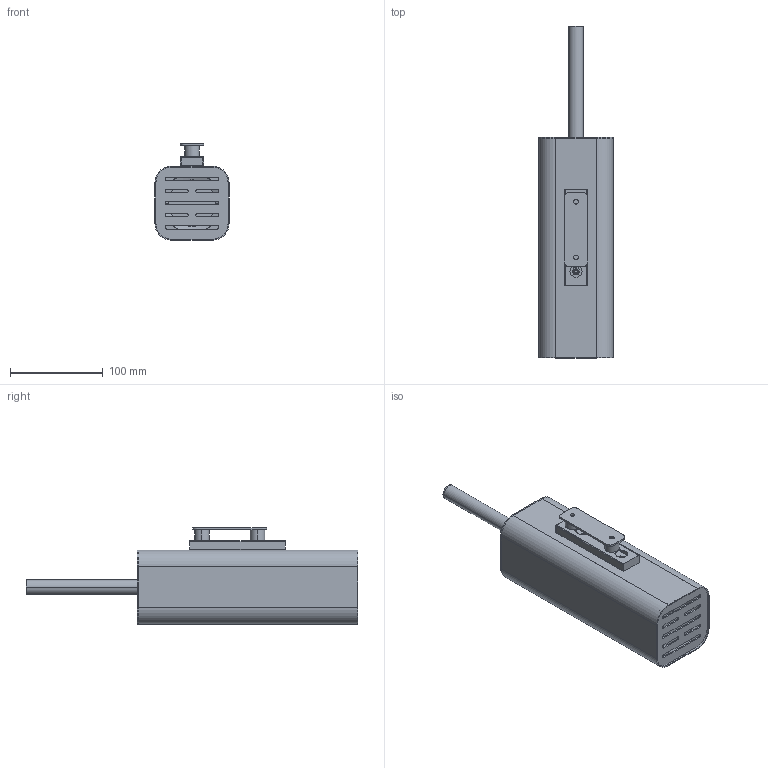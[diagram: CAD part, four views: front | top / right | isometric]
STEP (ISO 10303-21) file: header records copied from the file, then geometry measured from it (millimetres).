
FILE_DESCRIPTION((''),'2;1');
FILE_NAME('20241112-5700_ASM','2025-05-12T10:17:08',('Administrator'),(''),'CREO PARAMETRIC BY PTC INC, 2019471','CREO PARAMETRIC BY PTC INC, 2019471','');
FILE_SCHEMA(('CONFIG_CONTROL_DESIGN'));
Length unit declared in the file: millimetre
Products named in the file (14): 202411121-5701; 202411121-5702; 202411121-5703; 2024810-5705; 2024810-5706; N6757-03; 20181211-07; M5X15-P; 2025512-01; 2025512-03; 2025512-02; 20170601-57-06; M5X6-P; 20241112-5700_ASM
Assembly tree (16 placements, depth 2):
  20241112-5700_ASM
    202411121-5701
    202411121-5702
    202411121-5703
    2024810-5705
    2024810-5706
    N6757-03
    20181211-07
    M5X15-P
    2025512-01
    2025512-03  x2
    2025512-02
    20170601-57-06  x2
    M5X6-P  x2
Bounding box: 80 x 358.5 x 104 mm (x, y, z)
Volume: 448877.4 mm3; surface area: 366731 mm2
Topology: 16 solids, 20 shells, 497 faces, 1253 edges, 813 vertices
Faces by surface type: cylinder 245, plane 150, cone 46, bspline 38, torus 16, sphere 2
Entity records: 24186 total; most frequent: CARTESIAN_POINT 13982, ORIENTED_EDGE 2098, DIRECTION 1986, EDGE_CURVE 1055, AXIS2_PLACEMENT_3D 739, VERTEX_POINT 688, VECTOR 508, LINE 508
